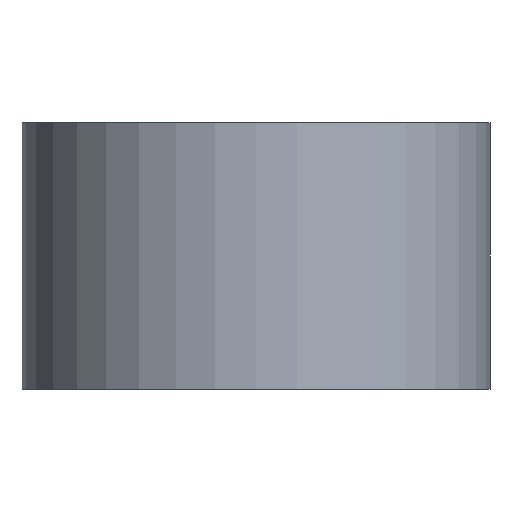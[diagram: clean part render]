
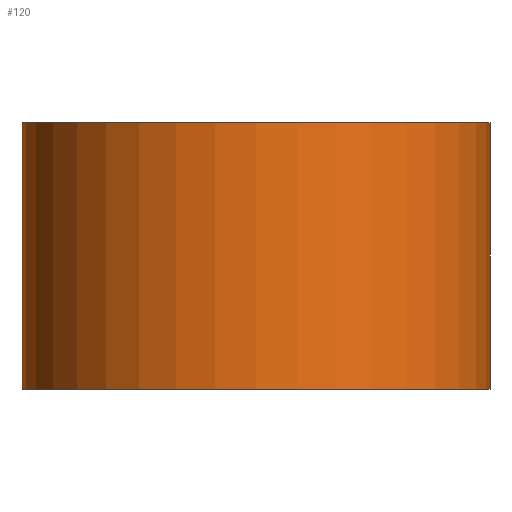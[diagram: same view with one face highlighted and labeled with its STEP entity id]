
A CAD part, front view. The second image highlights one B-rep face of the part: STEP entity #120.
In plain terms, the highlighted cylindrical face has radius 108 mm (diameter 216 mm), a partial arc.
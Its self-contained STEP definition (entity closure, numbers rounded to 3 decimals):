
#64=CARTESIAN_POINT('Axis2P3D Location',(0.,0.,61.5)) ;
#69=CARTESIAN_POINT('Line Origine',(108.,0.,61.5)) ;
#73=CARTESIAN_POINT('Vertex',(108.,0.,0.)) ;
#75=CARTESIAN_POINT('Vertex',(108.,0.,123.)) ;
#82=CARTESIAN_POINT('Vertex',(-108.,0.,0.)) ;
#85=CARTESIAN_POINT('Line Origine',(-108.,0.,61.5)) ;
#89=CARTESIAN_POINT('Vertex',(-108.,0.,123.)) ;
#104=CARTESIAN_POINT('Axis2P3D Location',(0.,0.,0.)) ;
#109=CARTESIAN_POINT('Axis2P3D Location',(0.,0.,123.)) ;
#65=DIRECTION('Axis2P3D Direction',(0.,0.,1.)) ;
#66=DIRECTION('Axis2P3D XDirection',(1.,0.,0.)) ;
#70=DIRECTION('Vector Direction',(0.,0.,1.)) ;
#86=DIRECTION('Vector Direction',(0.,0.,1.)) ;
#105=DIRECTION('Axis2P3D Direction',(0.,0.,1.)) ;
#110=DIRECTION('Axis2P3D Direction',(0.,0.,1.)) ;
#67=AXIS2_PLACEMENT_3D('Cylinder Axis2P3D',#64,#65,#66) ;
#106=AXIS2_PLACEMENT_3D('Circle Axis2P3D',#104,#105,$) ;
#111=AXIS2_PLACEMENT_3D('Circle Axis2P3D',#109,#110,$) ;
#115=ORIENTED_EDGE('',*,*,#91,.F.) ;
#116=ORIENTED_EDGE('',*,*,#108,.T.) ;
#117=ORIENTED_EDGE('',*,*,#77,.T.) ;
#118=ORIENTED_EDGE('',*,*,#113,.F.) ;
#71=VECTOR('Line Direction',#70,1.) ;
#87=VECTOR('Line Direction',#86,1.) ;
#120=ADVANCED_FACE('PartBody',(#119),#68,.T.) ;
#107=CIRCLE('generated circle',#106,108.) ;
#112=CIRCLE('generated circle',#111,108.) ;
#68=CYLINDRICAL_SURFACE('generated cylinder',#67,108.) ;
#77=EDGE_CURVE('',#74,#76,#72,.T.) ;
#91=EDGE_CURVE('',#83,#90,#88,.T.) ;
#108=EDGE_CURVE('',#83,#74,#107,.T.) ;
#113=EDGE_CURVE('',#90,#76,#112,.T.) ;
#114=EDGE_LOOP('',(#115,#116,#117,#118)) ;
#119=FACE_OUTER_BOUND('',#114,.T.) ;
#72=LINE('Line',#69,#71) ;
#88=LINE('Line',#85,#87) ;
#74=VERTEX_POINT('',#73) ;
#76=VERTEX_POINT('',#75) ;
#83=VERTEX_POINT('',#82) ;
#90=VERTEX_POINT('',#89) ;
